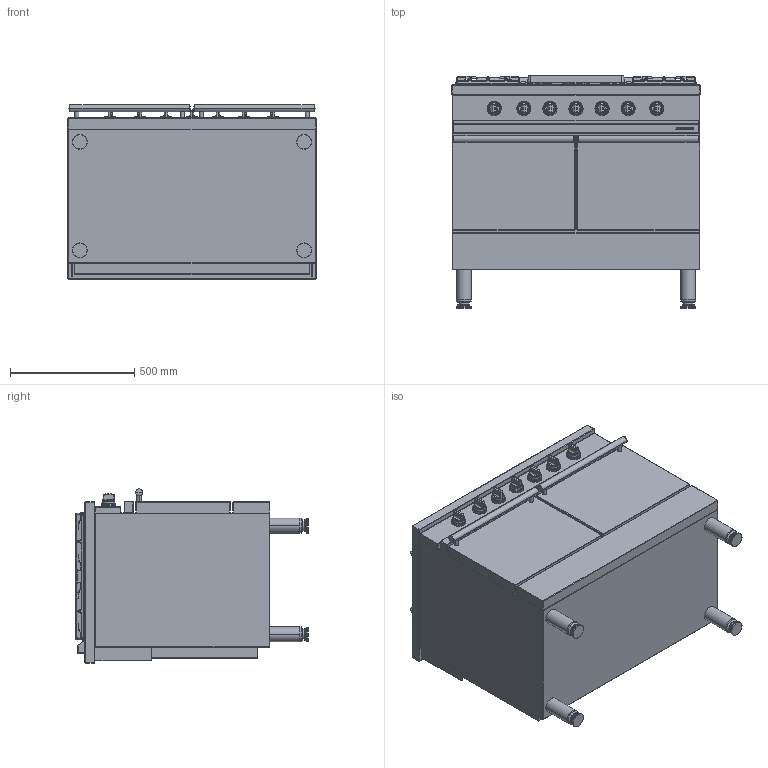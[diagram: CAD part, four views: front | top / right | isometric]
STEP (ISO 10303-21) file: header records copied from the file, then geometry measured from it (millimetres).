
FILE_DESCRIPTION((''),'2;1');
FILE_NAME('CG1052CF_EXPORT_STEP_ASM','2017-11-22T',('r.avril'),(''),'PRO/ENGINEER BY PARAMETRIC TECHNOLOGY CORPORATION, 2014200','PRO/ENGINEER BY PARAMETRIC TECHNOLOGY CORPORATION, 2014200','');
FILE_SCHEMA(('AP203_CONFIGURATION_CONTROLLED_3D_DESIGN_OF_MECHANICAL_PARTS_AND_ASSEMBLIES_MIM_LF { 1 0 10303 403 2 1 2 }'));
Products named in the file (15): FOURNEAUX_AMB_1052_EXPORT_STEP; TABLE_1000_CLASSIQUE; 3KW; 5KW; 1_5KW; 4KW; 65062008; 65062012; 65149005; 90000549_ASM; 6537024; 90000487_ASM; TABLE_1000_TRADITION_ASM; MANETTE_AMB_EXPORT_STEP; CG1052CF_EXPORT_STEP_ASM
Assembly tree (29 placements, depth 4):
  CG1052CF_EXPORT_STEP_ASM
    FOURNEAUX_AMB_1052_EXPORT_STEP
    TABLE_1000_TRADITION_ASM
      TABLE_1000_CLASSIQUE
      3KW  x2
      5KW
      1_5KW
      4KW
      90000549_ASM
        65062008
        65062012
        65149005  x4
      90000487_ASM  x2
        6537024
        65149005
    MANETTE_AMB_EXPORT_STEP  x7
Bounding box: 1000 x 937 x 703 mm (x, y, z)
Volume: 457473301 mm3; surface area: 8193053.5 mm2
Topology: 50 solids, 68 shells, 5031 faces, 13487 edges, 8985 vertices
Faces by surface type: plane 2102, cylinder 1174, bspline 1000, cone 287, torus 218, sphere 210, extrusion 40
Entity records: 169459 total; most frequent: CARTESIAN_POINT 48502, ORIENTED_EDGE 18598, DIRECTION 16951, EDGE_CURVE 9523, PRESENTATION_STYLE_ASSIGNMENT 8791, STYLED_ITEM 8791, CURVE_STYLE 8571, VECTOR 6384
